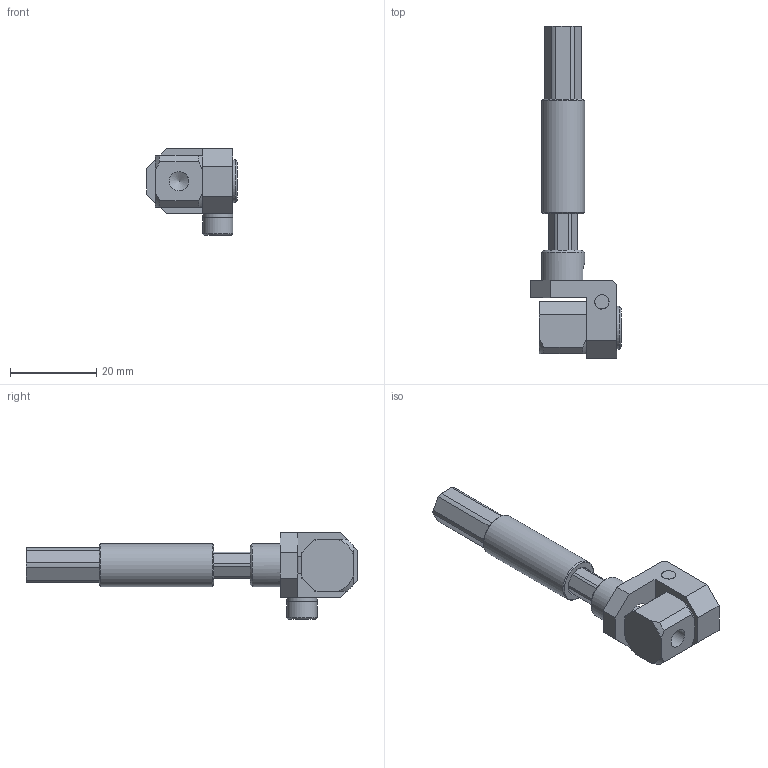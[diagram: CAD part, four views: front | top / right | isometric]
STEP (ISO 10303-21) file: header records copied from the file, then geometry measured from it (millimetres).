
FILE_DESCRIPTION(('STEP AP214'),'1');
FILE_NAME('CA.SSN.10100505.stp','2017-07-20T13:04:37',(' '),(' '),'Spatial InterOp 3D',' ',' ');
FILE_SCHEMA(('automotive_design'));
Length unit declared in the file: millimetre
Products named in the file (10): VSN.1010.3; VSN.1010.2.1; VSN.1010.4; SSN.10100505.1; M.5.9X20; VSN.10.1; GGB.10.5.5; V.TCEI.M4X16; R.4.SCH
Assembly tree (9 placements, depth 2):
  (unnamed)
    VSN.1010.3
    VSN.1010.2.1
    VSN.1010.4
    SSN.10100505.1
    M.5.9X20
    VSN.10.1
    GGB.10.5.5
    V.TCEI.M4X16
    R.4.SCH
Bounding box: 21 x 77 x 20 mm (x, y, z)
Volume: 6509.8 mm3; surface area: 7592.3 mm2
Topology: 8 solids, 9 shells, 340 faces, 946 edges, 624 vertices
Faces by surface type: plane 265, cylinder 41, cone 27, torus 6, bspline 1
Full cylindrical faces by diameter (mm): 2.5 x1, 3.3 x1, 4 x1, 4.2 x5, 4.3 x1, 4.5 x3, 5 x3, 5.2 x1, 6 x1, 7 x3, 8 x2, 9.9 x2, 10 x2
Entity records: 14666 total; most frequent: CARTESIAN_POINT 3108, DIRECTION 1827, ORIENTED_EDGE 1758, EDGE_CURVE 879, AXIS2_PLACEMENT_3D 643, VERTEX_POINT 607, LINE 541, VECTOR 541
